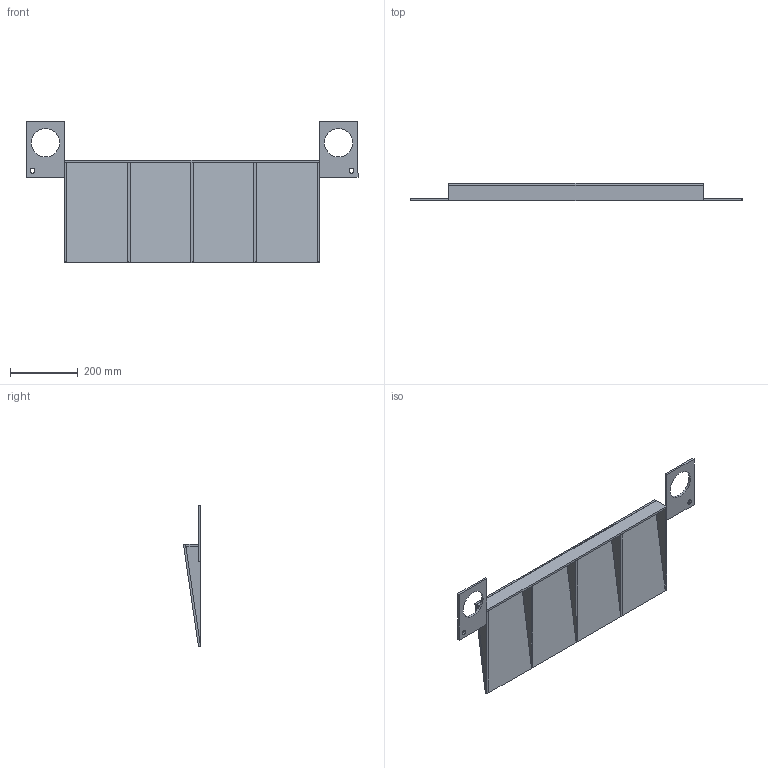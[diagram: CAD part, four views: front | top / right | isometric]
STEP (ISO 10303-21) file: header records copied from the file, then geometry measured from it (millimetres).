
FILE_DESCRIPTION (( 'STEP AP214' ), '1' );
FILE_NAME ('Drum Scale Ramp_HIDSR-3012 Series.STEP', '2024-05-14T15:48:01', ( '' ), ( '' ), 'SwSTEP 2.0', 'SolidWorks 2023', '' );
FILE_SCHEMA (( 'AUTOMOTIVE_DESIGN' ));
Length unit declared in the file: inch
Products named in the file (5): 100-142098; 100-142099_Carbon Steel; DP.25 x 12 x 29.5; PL.25 x 1.6875 x 29.5; Drum Scale Ramp_HIDSR-3012 Series
Assembly tree (9 placements, depth 2):
  Drum Scale Ramp_HIDSR-3012 Series
    PL.25 x 1.6875 x 29.5
    DP.25 x 12 x 29.5
    100-142098  x5
    100-142099_Carbon Steel  x2
Bounding box: 977.9 x 50.53 x 416.79 mm (x, y, z)
Volume: 2020924.1 mm3; surface area: 690968.5 mm2
Topology: 9 solids, 9 shells, 57 faces, 117 edges, 78 vertices
Faces by surface type: plane 49, cylinder 8
Entity records: 939 total; most frequent: DIRECTION 143, CARTESIAN_POINT 134, ORIENTED_EDGE 114, EDGE_CURVE 57, LINE 49, VECTOR 49, AXIS2_PLACEMENT_3D 47, VERTEX_POINT 38
